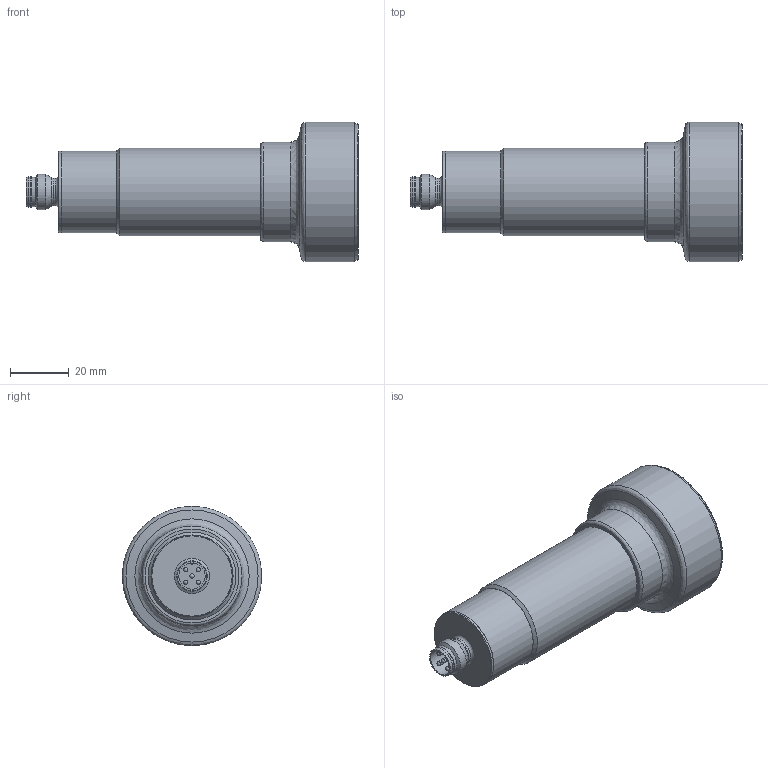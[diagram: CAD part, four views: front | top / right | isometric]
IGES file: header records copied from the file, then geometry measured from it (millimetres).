
Global section: file name: No Iges File Name specified; native system: AutoDesk Inventor R6.1; preprocessor: AutoDesk Inventor Iges Exporter R6.1; author: No Author specified; organization: No Organization specified; date: 20050809.113059; units: millimetre
Bounding box: 113.2 x 47.5 x 47.5 mm (x, y, z)
Surface area: 14661.4 mm2 (no closed solid volume)
Topology: 0 solids, 0 shells, 48 faces, 147 edges, 106 vertices
Faces by surface type: revolution 34, plane 9, bspline 5
